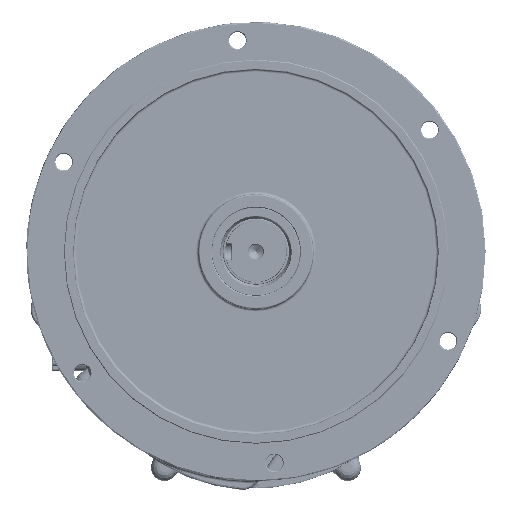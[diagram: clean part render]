
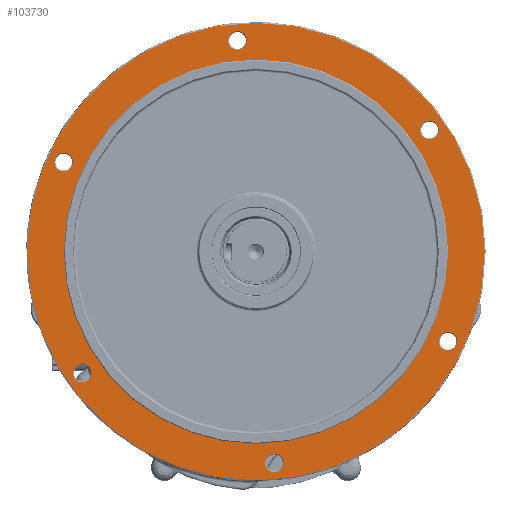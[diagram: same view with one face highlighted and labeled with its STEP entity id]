
A CAD part, front view. The second image highlights one B-rep face of the part: STEP entity #103730.
In plain terms, the highlighted planar face has unit normal (0, -1, 0).
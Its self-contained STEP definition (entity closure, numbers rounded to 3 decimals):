
#5937=FACE_BOUND('',#15290,.T.);
#5938=FACE_BOUND('',#15291,.T.);
#5939=FACE_BOUND('',#15292,.T.);
#5940=FACE_BOUND('',#15293,.T.);
#5941=FACE_BOUND('',#15294,.T.);
#5942=FACE_BOUND('',#15295,.T.);
#5943=FACE_BOUND('',#15296,.T.);
#6755=PLANE('',#110525);
#9077=FACE_OUTER_BOUND('',#15289,.T.);
#15289=EDGE_LOOP('',(#68663));
#15290=EDGE_LOOP('',(#68664));
#15291=EDGE_LOOP('',(#68665));
#15292=EDGE_LOOP('',(#68666));
#15293=EDGE_LOOP('',(#68667));
#15294=EDGE_LOOP('',(#68668));
#15295=EDGE_LOOP('',(#68669));
#15296=EDGE_LOOP('',(#68670));
#34928=CIRCLE('',#110294,259.);
#34931=CIRCLE('',#110299,217.5);
#35033=CIRCLE('',#110492,10.5);
#35040=CIRCLE('',#110506,10.5);
#35043=CIRCLE('',#110511,10.5);
#35046=CIRCLE('',#110516,10.5);
#35049=CIRCLE('',#110521,10.5);
#35052=CIRCLE('',#110526,10.5);
#40940=VERTEX_POINT('',#159767);
#40943=VERTEX_POINT('',#159776);
#41113=VERTEX_POINT('',#161818);
#41122=VERTEX_POINT('',#161942);
#41125=VERTEX_POINT('',#161952);
#41128=VERTEX_POINT('',#161962);
#41131=VERTEX_POINT('',#161972);
#41134=VERTEX_POINT('',#161982);
#51045=EDGE_CURVE('',#40940,#40940,#34928,.T.);
#51050=EDGE_CURVE('',#40943,#40943,#34931,.T.);
#51338=EDGE_CURVE('',#41113,#41113,#35033,.T.);
#51356=EDGE_CURVE('',#41122,#41122,#35040,.T.);
#51361=EDGE_CURVE('',#41125,#41125,#35043,.T.);
#51366=EDGE_CURVE('',#41128,#41128,#35046,.T.);
#51371=EDGE_CURVE('',#41131,#41131,#35049,.T.);
#51376=EDGE_CURVE('',#41134,#41134,#35052,.T.);
#68663=ORIENTED_EDGE('',*,*,#51045,.F.);
#68664=ORIENTED_EDGE('',*,*,#51371,.F.);
#68665=ORIENTED_EDGE('',*,*,#51361,.F.);
#68666=ORIENTED_EDGE('',*,*,#51338,.F.);
#68667=ORIENTED_EDGE('',*,*,#51050,.F.);
#68668=ORIENTED_EDGE('',*,*,#51356,.F.);
#68669=ORIENTED_EDGE('',*,*,#51366,.F.);
#68670=ORIENTED_EDGE('',*,*,#51376,.F.);
#103730=ADVANCED_FACE('',(#9077,#5937,#5938,#5939,#5940,#5941,#5942,#5943),
#6755,.T.);
#110294=AXIS2_PLACEMENT_3D('',#159768,#122615,#122616);
#110299=AXIS2_PLACEMENT_3D('',#159778,#122627,#122628);
#110492=AXIS2_PLACEMENT_3D('',#161819,#123127,#123128);
#110506=AXIS2_PLACEMENT_3D('',#161943,#123159,#123160);
#110511=AXIS2_PLACEMENT_3D('',#161953,#123171,#123172);
#110516=AXIS2_PLACEMENT_3D('',#161963,#123183,#123184);
#110521=AXIS2_PLACEMENT_3D('',#161973,#123195,#123196);
#110525=AXIS2_PLACEMENT_3D('',#161981,#123205,#123206);
#110526=AXIS2_PLACEMENT_3D('',#161983,#123207,#123208);
#122615=DIRECTION('center_axis',(0.,1.,0.));
#122616=DIRECTION('ref_axis',(-1.,0.,0.));
#122627=DIRECTION('center_axis',(0.,-1.,0.));
#122628=DIRECTION('ref_axis',(-1.,0.,0.));
#123127=DIRECTION('center_axis',(0.,-1.,0.));
#123128=DIRECTION('ref_axis',(-1.,0.,0.));
#123159=DIRECTION('center_axis',(0.,-1.,0.));
#123160=DIRECTION('ref_axis',(-0.5,0.,0.866));
#123171=DIRECTION('center_axis',(0.,-1.,0.));
#123172=DIRECTION('ref_axis',(0.5,0.,0.866));
#123183=DIRECTION('center_axis',(0.,-1.,0.));
#123184=DIRECTION('ref_axis',(1.,0.,0.));
#123195=DIRECTION('center_axis',(0.,-1.,0.));
#123196=DIRECTION('ref_axis',(0.5,0.,-0.866));
#123205=DIRECTION('center_axis',(0.,-1.,0.));
#123206=DIRECTION('ref_axis',(0.,0.,-1.));
#123207=DIRECTION('center_axis',(0.,-1.,0.));
#123208=DIRECTION('ref_axis',(-0.5,0.,-0.866));
#159767=CARTESIAN_POINT('',(259.228,-235.728,63.25));
#159768=CARTESIAN_POINT('Origin',(0.228,-235.728,63.25));
#159776=CARTESIAN_POINT('',(217.728,-235.728,63.25));
#159778=CARTESIAN_POINT('Origin',(0.228,-235.728,63.25));
#161818=CARTESIAN_POINT('',(-10.189,-235.728,302.337));
#161819=CARTESIAN_POINT('Origin',(-20.689,-235.728,302.337));
#161942=CARTESIAN_POINT('',(202.075,-235.728,191.815));
#161943=CARTESIAN_POINT('Origin',(196.825,-235.728,200.908));
#161952=CARTESIAN_POINT('',(212.492,-235.728,-47.272));
#161953=CARTESIAN_POINT('Origin',(217.742,-235.728,-38.178));
#161962=CARTESIAN_POINT('',(10.646,-235.728,-175.837));
#161963=CARTESIAN_POINT('Origin',(21.146,-235.728,-175.837));
#161972=CARTESIAN_POINT('',(-201.618,-235.728,-65.315));
#161973=CARTESIAN_POINT('Origin',(-196.368,-235.728,-74.408));
#161981=CARTESIAN_POINT('Origin',(0.228,-235.728,63.252));
#161982=CARTESIAN_POINT('',(-212.035,-235.728,173.772));
#161983=CARTESIAN_POINT('Origin',(-217.285,-235.728,164.678));
